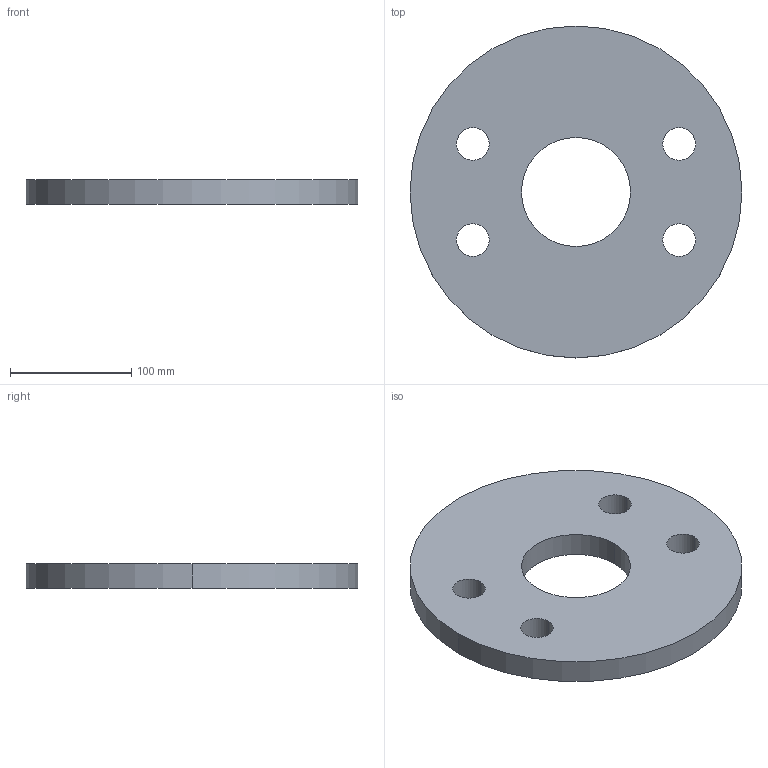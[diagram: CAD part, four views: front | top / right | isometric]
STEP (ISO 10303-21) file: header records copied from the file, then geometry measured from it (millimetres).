
FILE_DESCRIPTION (( 'STEP AP203' ), '1' );
FILE_NAME ('Kreissscheibe M24.STEP', '2018-02-22T05:51:14', ( 'install' ), ( 'Hewlett-Packard Company' ), 'SwSTEP 2.0', 'SolidWorks 2017', '' );
FILE_SCHEMA (( 'CONFIG_CONTROL_DESIGN' ));
Length unit declared in the file: millimetre
Products named in the file (1): Kreissscheibe M24
Bounding box: 274 x 274 x 20 mm (x, y, z)
Volume: 1006252.1 mm3; surface area: 130281.8 mm2
Topology: 1 solids, 1 shells, 14 faces, 36 edges, 24 vertices
Faces by surface type: cylinder 12, plane 2
Entity records: 541 total; most frequent: DIRECTION 90, CARTESIAN_POINT 75, ORIENTED_EDGE 72, AXIS2_PLACEMENT_3D 39, EDGE_CURVE 36, CIRCLE 24, VERTEX_POINT 24, EDGE_LOOP 24
